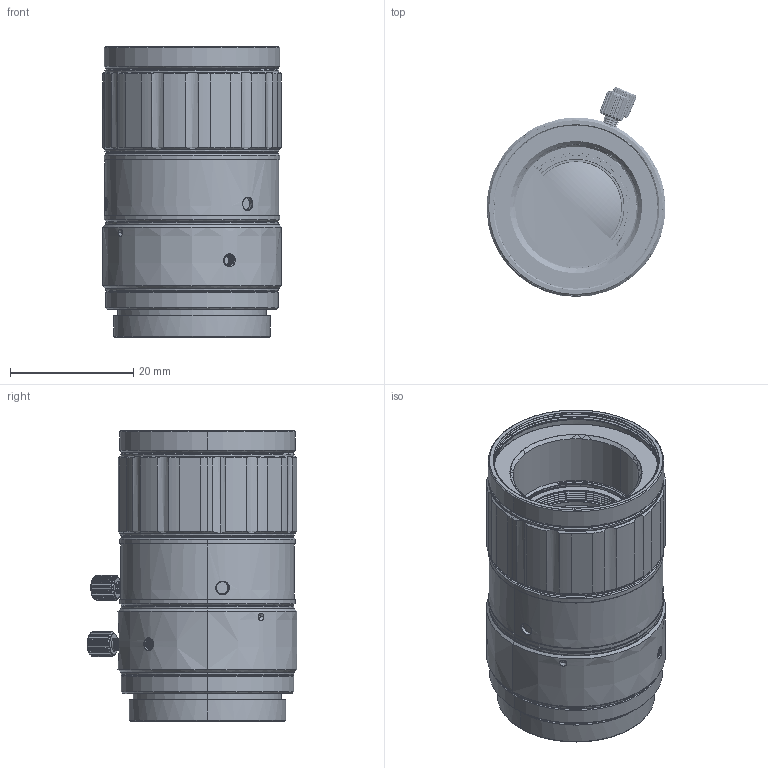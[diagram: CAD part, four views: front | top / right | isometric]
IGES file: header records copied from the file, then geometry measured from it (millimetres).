
Start section: SolidWorks IGES file using analytic representation for surfaces
Global section: file name: C:\Users\dingguolei\Desktop\FA镜头3D图-去掉了镜头上面的型号和LOGO（2025.05.14）\MFA117-S35.IGS; native system: SolidWorks 2017; preprocessor: SolidWorks 2017; author: dingguolei; date: 250515.175354; units: millimetre
Bounding box: 29.01 x 34.01 x 47.12 mm (x, y, z)
Surface area: 14496.8 mm2 (no closed solid volume)
Topology: 0 solids, 0 shells, 1177 faces, 15000 edges, 14983 vertices
Faces by surface type: revolution 675, bspline 502
